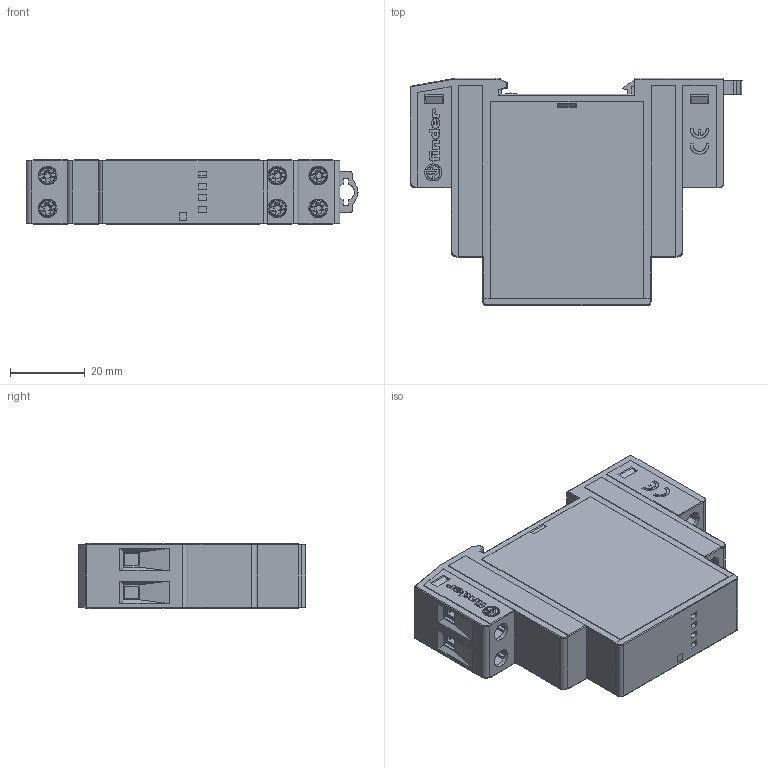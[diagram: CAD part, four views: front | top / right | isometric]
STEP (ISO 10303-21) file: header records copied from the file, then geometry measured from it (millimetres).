
FILE_DESCRIPTION(('STEP AP214'),'2;1');
FILE_NAME('1381_rev01.stp','2013-09-17T10:59:59',(''),(''),'2007.1.106','THINKDESIGN','');
FILE_SCHEMA(('AUTOMOTIVE_DESIGN'));
Length unit declared in the file: millimetre
Products named in the file (1): top
Bounding box: 88.85 x 60.8 x 17.5 mm (x, y, z)
Surface area: 19560.7 mm2 (no closed solid volume)
Topology: 0 solids, 0 shells, 1205 faces, 7378 edges, 7360 vertices
Faces by surface type: plane 966, cylinder 129, bspline 110
Full cylindrical faces by diameter (mm): 3 x8, 5 x6
Entity records: 65209 total; most frequent: CARTESIAN_POINT 22426, DIRECTION 9081, COMPOSITE_CURVE_SEGMENT 7378, TRIMMED_CURVE 6613, VECTOR 6377, LINE 6377, AXIS2_PLACEMENT_3D 1352, OUTER_BOUNDARY_CURVE 1205
